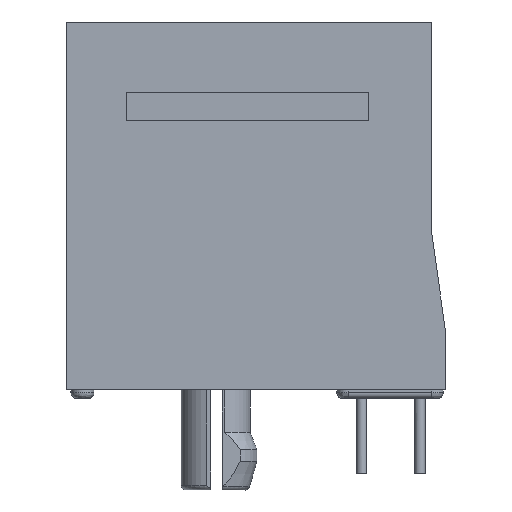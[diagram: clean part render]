
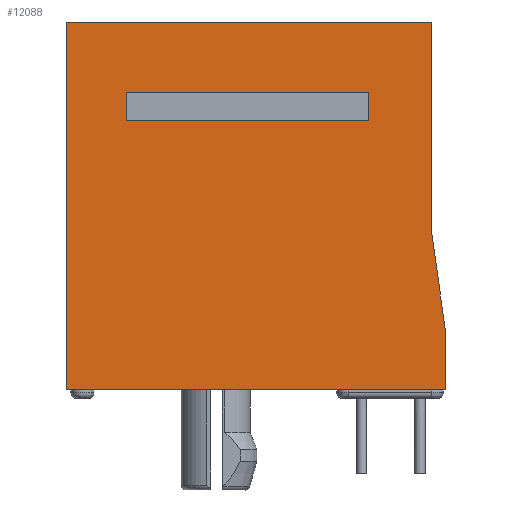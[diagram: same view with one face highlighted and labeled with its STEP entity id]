
A CAD part, left-side view. The second image highlights one B-rep face of the part: STEP entity #12088.
In plain terms, the highlighted planar face has unit normal (-1, 0, 0).
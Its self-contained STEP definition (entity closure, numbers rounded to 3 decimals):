
#1526=DIRECTION('',(0.,-1.,0.));
#1527=VECTOR('',#1526,15.9);
#1528=CARTESIAN_POINT('',(-7.75,15.9,0.));
#1529=LINE('',#1528,#1527);
#1530=DIRECTION('',(0.,0.,-1.));
#1531=VECTOR('',#1530,9.2);
#1532=CARTESIAN_POINT('',(-7.75,0.,0.));
#1533=LINE('',#1532,#1531);
#1534=DIRECTION('',(0.,-0.138,-0.99));
#1535=VECTOR('',#1534,4.342);
#1536=CARTESIAN_POINT('',(-7.75,0.,-9.2));
#1537=LINE('',#1536,#1535);
#1538=DIRECTION('',(0.,0.,-1.));
#1539=VECTOR('',#1538,2.5);
#1540=CARTESIAN_POINT('',(-7.75,-0.6,-13.5));
#1541=LINE('',#1540,#1539);
#1542=DIRECTION('',(0.,1.,0.));
#1543=VECTOR('',#1542,16.5);
#1544=CARTESIAN_POINT('',(-7.75,-0.6,-16.));
#1545=LINE('',#1544,#1543);
#1546=DIRECTION('',(0.,0.,1.));
#1547=VECTOR('',#1546,16.);
#1548=CARTESIAN_POINT('',(-7.75,15.9,-16.));
#1549=LINE('',#1548,#1547);
#1550=DIRECTION('',(0.,1.,0.));
#1551=VECTOR('',#1550,10.55);
#1552=CARTESIAN_POINT('',(-7.75,2.75,-3.05));
#1553=LINE('',#1552,#1551);
#1554=DIRECTION('',(0.,0.,1.));
#1555=VECTOR('',#1554,1.25);
#1556=CARTESIAN_POINT('',(-7.75,13.3,-4.3));
#1557=LINE('',#1556,#1555);
#1558=DIRECTION('',(0.,1.,0.));
#1559=VECTOR('',#1558,10.55);
#1560=CARTESIAN_POINT('',(-7.75,2.75,-4.3));
#1561=LINE('',#1560,#1559);
#1562=DIRECTION('',(0.,0.,1.));
#1563=VECTOR('',#1562,1.25);
#1564=CARTESIAN_POINT('',(-7.75,2.75,-4.3));
#1565=LINE('',#1564,#1563);
#8115=CARTESIAN_POINT('',(-7.75,-0.6,-16.));
#8116=CARTESIAN_POINT('',(-7.75,15.9,-16.));
#8117=VERTEX_POINT('',#8115);
#8118=VERTEX_POINT('',#8116);
#8357=CARTESIAN_POINT('',(-7.75,15.9,0.));
#8358=CARTESIAN_POINT('',(-7.75,0.,0.));
#8359=VERTEX_POINT('',#8357);
#8360=VERTEX_POINT('',#8358);
#8361=CARTESIAN_POINT('',(-7.75,0.,-9.2));
#8362=VERTEX_POINT('',#8361);
#8363=CARTESIAN_POINT('',(-7.75,-0.6,-13.5));
#8364=VERTEX_POINT('',#8363);
#9320=CARTESIAN_POINT('',(-7.75,2.75,-3.05));
#9321=CARTESIAN_POINT('',(-7.75,13.3,-3.05));
#9322=VERTEX_POINT('',#9320);
#9323=VERTEX_POINT('',#9321);
#9324=CARTESIAN_POINT('',(-7.75,2.75,-4.3));
#9325=CARTESIAN_POINT('',(-7.75,13.3,-4.3));
#9326=VERTEX_POINT('',#9324);
#9327=VERTEX_POINT('',#9325);
#12060=CARTESIAN_POINT('',(-7.75,7.65,-8.));
#12061=DIRECTION('',(1.,0.,0.));
#12062=DIRECTION('',(0.,0.,1.));
#12063=AXIS2_PLACEMENT_3D('',#12060,#12061,#12062);
#12064=PLANE('',#12063);
#12066=ORIENTED_EDGE('',*,*,#12065,.T.);
#12068=ORIENTED_EDGE('',*,*,#12067,.T.);
#12070=ORIENTED_EDGE('',*,*,#12069,.T.);
#12072=ORIENTED_EDGE('',*,*,#12071,.T.);
#12073=ORIENTED_EDGE('',*,*,#11759,.T.);
#12075=ORIENTED_EDGE('',*,*,#12074,.T.);
#12076=EDGE_LOOP('',(#12066,#12068,#12070,#12072,#12073,#12075));
#12077=FACE_OUTER_BOUND('',#12076,.F.);
#12079=ORIENTED_EDGE('',*,*,#12078,.T.);
#12081=ORIENTED_EDGE('',*,*,#12080,.F.);
#12083=ORIENTED_EDGE('',*,*,#12082,.F.);
#12085=ORIENTED_EDGE('',*,*,#12084,.T.);
#12086=EDGE_LOOP('',(#12079,#12081,#12083,#12085));
#12087=FACE_BOUND('',#12086,.F.);
#12088=ADVANCED_FACE('',(#12077,#12087),#12064,.F.);
#11759=EDGE_CURVE('',#8117,#8118,#1545,.T.);
#12065=EDGE_CURVE('',#8359,#8360,#1529,.T.);
#12067=EDGE_CURVE('',#8360,#8362,#1533,.T.);
#12069=EDGE_CURVE('',#8362,#8364,#1537,.T.);
#12071=EDGE_CURVE('',#8364,#8117,#1541,.T.);
#12074=EDGE_CURVE('',#8118,#8359,#1549,.T.);
#12078=EDGE_CURVE('',#9322,#9323,#1553,.T.);
#12080=EDGE_CURVE('',#9327,#9323,#1557,.T.);
#12082=EDGE_CURVE('',#9326,#9327,#1561,.T.);
#12084=EDGE_CURVE('',#9326,#9322,#1565,.T.);
